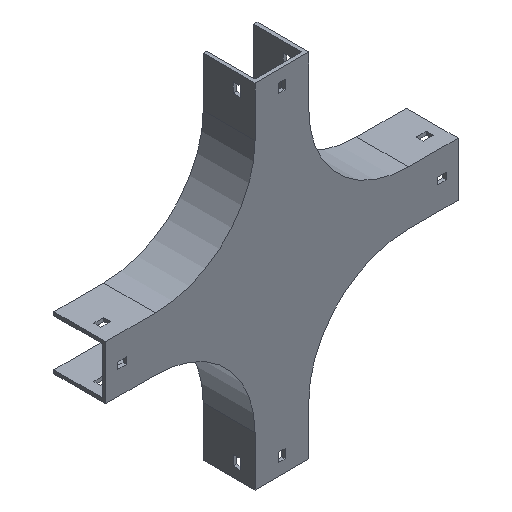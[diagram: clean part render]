
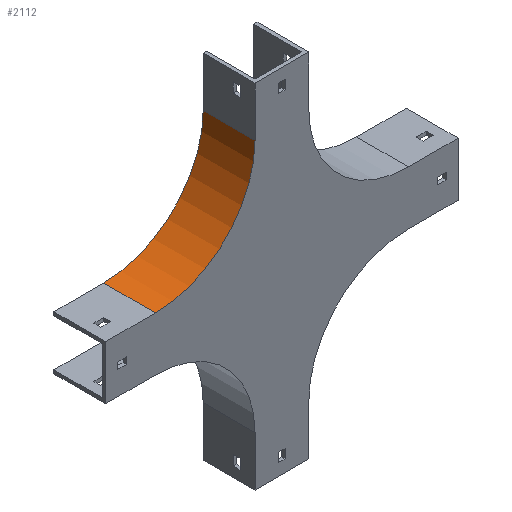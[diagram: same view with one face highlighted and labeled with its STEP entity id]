
A CAD part, isometric view. The second image highlights one B-rep face of the part: STEP entity #2112.
In plain terms, the highlighted cylindrical face has radius 100 mm (diameter 200 mm), a partial arc.
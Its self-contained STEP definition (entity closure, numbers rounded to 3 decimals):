
#135 = CARTESIAN_POINT ( 'NONE',  ( -254., 52., -100. ) ) ;
#178 = CARTESIAN_POINT ( 'NONE',  ( -254., 0., -100. ) ) ;
#230 = ORIENTED_EDGE ( 'NONE', *, *, #1288, .F. ) ;
#363 = DIRECTION ( 'NONE',  ( 0., -1., 0. ) ) ;
#395 = DIRECTION ( 'NONE',  ( 0., -1., 0. ) ) ;
#560 = VERTEX_POINT ( 'NONE', #135 ) ;
#612 = EDGE_CURVE ( 'NONE', #2005, #742, #2074, .T. ) ;
#623 = ORIENTED_EDGE ( 'NONE', *, *, #983, .T. ) ;
#742 = VERTEX_POINT ( 'NONE', #1371 ) ;
#766 = EDGE_LOOP ( 'NONE', ( #982, #1234, #230, #623 ) ) ;
#804 = CARTESIAN_POINT ( 'NONE',  ( -154., 52., 0. ) ) ;
#816 = DIRECTION ( 'NONE',  ( 0., -1., 0. ) ) ;
#899 = EDGE_CURVE ( 'NONE', #2309, #742, #2697, .T. ) ;
#960 = VECTOR ( 'NONE', #1194, 1000. ) ;
#982 = ORIENTED_EDGE ( 'NONE', *, *, #899, .T. ) ;
#983 = EDGE_CURVE ( 'NONE', #560, #2309, #1449, .T. ) ;
#1027 = CARTESIAN_POINT ( 'NONE',  ( -154., 52., 0. ) ) ;
#1194 = DIRECTION ( 'NONE',  ( 0., -1., 0. ) ) ;
#1203 = DIRECTION ( 'NONE',  ( 0., 0., 1. ) ) ;
#1204 = CARTESIAN_POINT ( 'NONE',  ( -254., 0., 0. ) ) ;
#1234 = ORIENTED_EDGE ( 'NONE', *, *, #612, .F. ) ;
#1239 = CARTESIAN_POINT ( 'NONE',  ( -254., 52., -100. ) ) ;
#1288 = EDGE_CURVE ( 'NONE', #560, #2005, #2298, .T. ) ;
#1371 = CARTESIAN_POINT ( 'NONE',  ( -154., 0., 0. ) ) ;
#1423 = CARTESIAN_POINT ( 'NONE',  ( -254., 52., 0. ) ) ;
#1431 = FACE_OUTER_BOUND ( 'NONE', #766, .T. ) ;
#1445 = AXIS2_PLACEMENT_3D ( 'NONE', #1423, #363, #1203 ) ;
#1449 = LINE ( 'NONE', #1239, #960 ) ;
#1864 = DIRECTION ( 'NONE',  ( 0., -1., 0. ) ) ;
#2005 = VERTEX_POINT ( 'NONE', #804 ) ;
#2049 = DIRECTION ( 'NONE',  ( 0., 0., 1. ) ) ;
#2074 = LINE ( 'NONE', #1027, #2101 ) ;
#2100 = AXIS2_PLACEMENT_3D ( 'NONE', #2718, #816, #2508 ) ;
#2101 = VECTOR ( 'NONE', #1864, 1000. ) ;
#2112 = ADVANCED_FACE ( 'NONE', ( #1431 ), #2282, .F. ) ;
#2282 = CYLINDRICAL_SURFACE ( 'NONE', #2100, 100. ) ;
#2298 = CIRCLE ( 'NONE', #1445, 100. ) ;
#2309 = VERTEX_POINT ( 'NONE', #178 ) ;
#2508 = DIRECTION ( 'NONE',  ( 0., 0., -1. ) ) ;
#2547 = AXIS2_PLACEMENT_3D ( 'NONE', #1204, #395, #2049 ) ;
#2697 = CIRCLE ( 'NONE', #2547, 100. ) ;
#2718 = CARTESIAN_POINT ( 'NONE',  ( -254., 52., 0. ) ) ;
